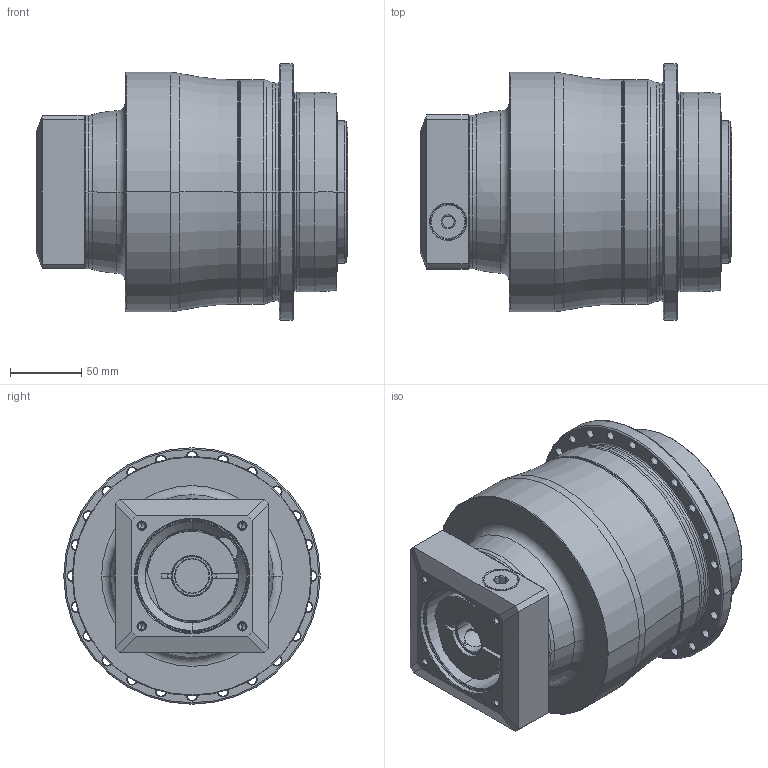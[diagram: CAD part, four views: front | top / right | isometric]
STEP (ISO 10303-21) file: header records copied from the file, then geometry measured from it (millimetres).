
FILE_DESCRIPTION((''),'2;1');
FILE_NAME('AP140_3ST_24-P0409510201_ASM','2018-06-06T',('d01226'),(''),'PRO/ENGINEER BY PARAMETRIC TECHNOLOGY CORPORATION, 2008410','PRO/ENGINEER BY PARAMETRIC TECHNOLOGY CORPORATION, 2008410','');
FILE_SCHEMA(('CONFIG_CONTROL_DESIGN'));
Length unit declared in the file: millimetre
Products named in the file (9): P0278501003; P0359501103; P1366500201; P0503500010; P0912353001; P1211500001; P0409510201; 21711418017; AP140_3ST_24-P0409510201_ASM
Assembly tree (8 placements, depth 2):
  AP140_3ST_24-P0409510201_ASM
    P0278501003
    P0359501103
    P1366500201
    P0503500010
    P0912353001
    P1211500001
    P0409510201
    21711418017
Bounding box: 218.5 x 180 x 180 mm (x, y, z)
Volume: 3493573.2 mm3; surface area: 307943.4 mm2
Topology: 9 solids, 34 shells, 639 faces, 1488 edges, 918 vertices
Faces by surface type: cylinder 267, cone 177, plane 107, torus 72, bspline 16
Entity records: 23713 total; most frequent: CARTESIAN_POINT 8328, DIRECTION 3537, ORIENTED_EDGE 2858, AXIS2_PLACEMENT_3D 1514, EDGE_CURVE 1480, VERTEX_POINT 918, CIRCLE 864, EDGE_LOOP 792
